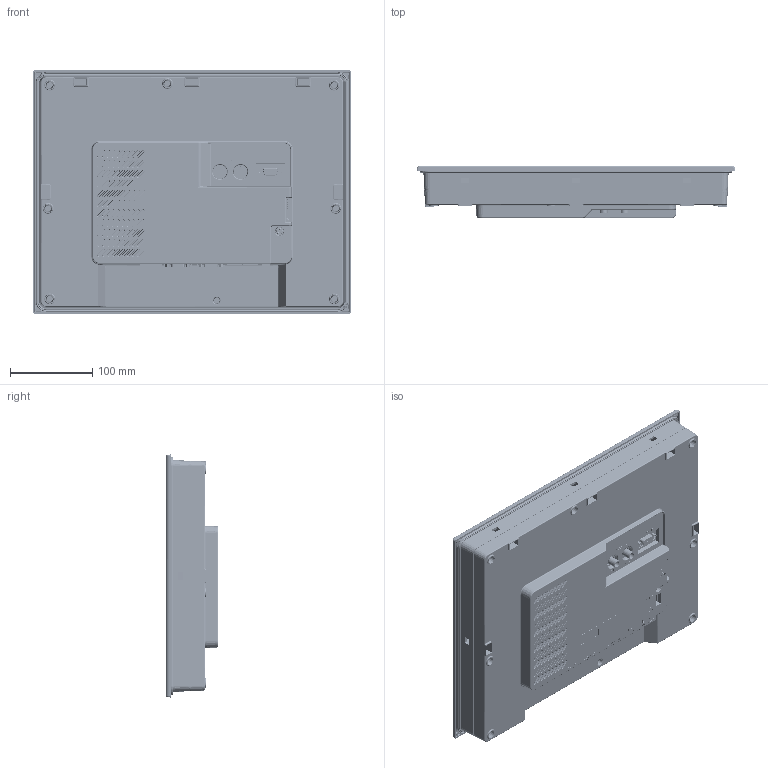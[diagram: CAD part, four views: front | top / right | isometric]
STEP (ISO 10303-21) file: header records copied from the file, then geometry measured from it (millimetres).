
FILE_DESCRIPTION((''),'2;1');
FILE_NAME('PRT0001','2019-04-17T',('YY.CHENG'),(''),'CREO PARAMETRIC BY PTC INC, 2015080','CREO PARAMETRIC BY PTC INC, 2015080','');
FILE_SCHEMA(('CONFIG_CONTROL_DESIGN'));
Products named in the file (1): PRT0001
Bounding box: 387.68 x 63.8 x 295.68 mm (x, y, z)
Volume: 852043.8 mm3; surface area: 790756.4 mm2
Topology: 1 solids, 40 shells, 10349 faces, 28873 edges, 18850 vertices
Faces by surface type: plane 7350, cylinder 1850, cone 438, torus 352, extrusion 173, bspline 169, sphere 17
Entity records: 352708 total; most frequent: CARTESIAN_POINT 87029, ORIENTED_EDGE 57731, DIRECTION 51018, EDGE_CURVE 28867, VECTOR 22696, LINE 22523, VERTEX_POINT 18850, AXIS2_PLACEMENT_3D 14161
